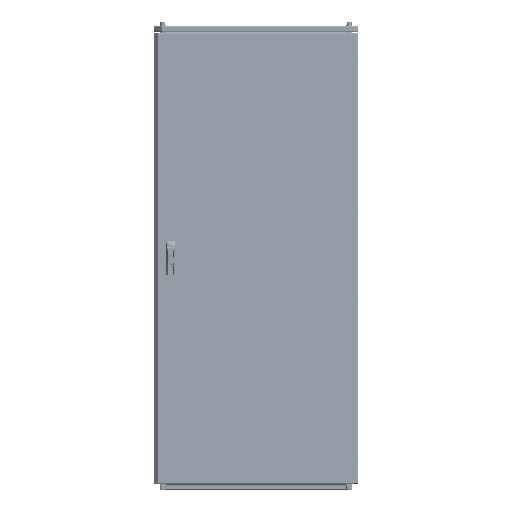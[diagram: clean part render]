
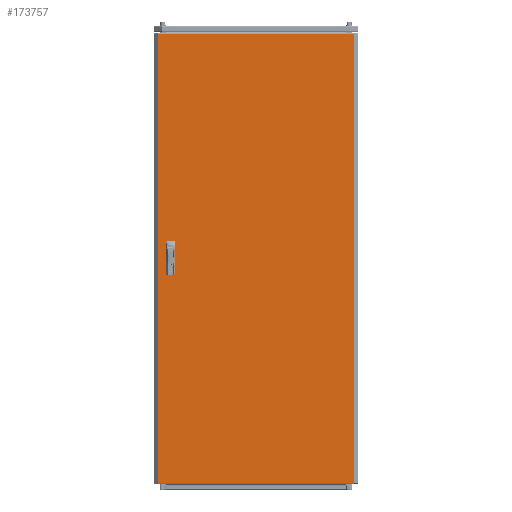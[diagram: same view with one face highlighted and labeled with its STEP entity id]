
A CAD part, top view. The second image highlights one B-rep face of the part: STEP entity #173757.
In plain terms, the highlighted planar face has unit normal (0, 0, 1).
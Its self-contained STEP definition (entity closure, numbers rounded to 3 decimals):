
#792 = DIRECTION ( 'NONE',  ( 0., 0., -1. ) ) ;
#7034 = EDGE_CURVE ( 'NONE', #218045, #122616, #95365, .T. ) ;
#11101 = VERTEX_POINT ( 'NONE', #95816 ) ;
#13600 = LINE ( 'NONE', #199416, #47306 ) ;
#14754 = VERTEX_POINT ( 'NONE', #122624 ) ;
#15199 = ORIENTED_EDGE ( 'NONE', *, *, #7034, .F. ) ;
#15767 = LINE ( 'NONE', #108133, #219562 ) ;
#16088 = DIRECTION ( 'NONE',  ( 1., 0., 0. ) ) ;
#16278 = VERTEX_POINT ( 'NONE', #167159 ) ;
#19413 = CARTESIAN_POINT ( 'NONE',  ( -317.5, -62.5, 0. ) ) ;
#22936 = CARTESIAN_POINT ( 'NONE',  ( -317.5, -62.5, 0. ) ) ;
#26870 = DIRECTION ( 'NONE',  ( -1., 0., 0. ) ) ;
#29072 = VECTOR ( 'NONE', #86036, 1000. ) ;
#29470 = EDGE_LOOP ( 'NONE', ( #204552, #179760, #103034, #164426 ) ) ;
#34329 = LINE ( 'NONE', #141286, #180060 ) ;
#37927 = ORIENTED_EDGE ( 'NONE', *, *, #128377, .F. ) ;
#39234 = AXIS2_PLACEMENT_3D ( 'NONE', #238852, #792, #127204 ) ;
#43560 = CARTESIAN_POINT ( 'NONE',  ( -342.5, 12.5, 0. ) ) ;
#44657 = VECTOR ( 'NONE', #26870, 1000. ) ;
#46365 = CARTESIAN_POINT ( 'NONE',  ( -317.5, -12.5, 0. ) ) ;
#47306 = VECTOR ( 'NONE', #234644, 1000. ) ;
#51247 = ORIENTED_EDGE ( 'NONE', *, *, #104900, .F. ) ;
#56586 = CARTESIAN_POINT ( 'NONE',  ( -377.875, -869.5, 0. ) ) ;
#57864 = CARTESIAN_POINT ( 'NONE',  ( 377.875, -869.5, 0. ) ) ;
#59441 = LINE ( 'NONE', #131169, #233244 ) ;
#68687 = CARTESIAN_POINT ( 'NONE',  ( -342.5, 62.5, 0. ) ) ;
#71178 = CARTESIAN_POINT ( 'NONE',  ( -377.875, -869.5, 0. ) ) ;
#71860 = EDGE_CURVE ( 'NONE', #184572, #16278, #204584, .T. ) ;
#83690 = VERTEX_POINT ( 'NONE', #162291 ) ;
#85874 = VECTOR ( 'NONE', #134119, 1000. ) ;
#86036 = DIRECTION ( 'NONE',  ( -1., 0., 0. ) ) ;
#88088 = DIRECTION ( 'NONE',  ( -1., 0., 0. ) ) ;
#89260 = LINE ( 'NONE', #68687, #127742 ) ;
#91992 = VECTOR ( 'NONE', #99536, 1000. ) ;
#95365 = LINE ( 'NONE', #187609, #233957 ) ;
#95816 = CARTESIAN_POINT ( 'NONE',  ( -317.5, 62.5, 0. ) ) ;
#98050 = EDGE_CURVE ( 'NONE', #150787, #184572, #156550, .T. ) ;
#99536 = DIRECTION ( 'NONE',  ( 0., 1., 0. ) ) ;
#103034 = ORIENTED_EDGE ( 'NONE', *, *, #215682, .T. ) ;
#104900 = EDGE_CURVE ( 'NONE', #11101, #218045, #89260, .T. ) ;
#106095 = VERTEX_POINT ( 'NONE', #22936 ) ;
#108133 = CARTESIAN_POINT ( 'NONE',  ( -342.5, 12.5, 0. ) ) ;
#109219 = EDGE_CURVE ( 'NONE', #16278, #106095, #59441, .T. ) ;
#112093 = DIRECTION ( 'NONE',  ( 0., 1., 0. ) ) ;
#112161 = VERTEX_POINT ( 'NONE', #71178 ) ;
#119227 = CARTESIAN_POINT ( 'NONE',  ( -377.875, 869.5, 0. ) ) ;
#122526 = ORIENTED_EDGE ( 'NONE', *, *, #71860, .F. ) ;
#122616 = VERTEX_POINT ( 'NONE', #43560 ) ;
#122624 = CARTESIAN_POINT ( 'NONE',  ( -377.875, 869.5, 0. ) ) ;
#127204 = DIRECTION ( 'NONE',  ( -1., 0., 0. ) ) ;
#127599 = LINE ( 'NONE', #19413, #91992 ) ;
#127742 = VECTOR ( 'NONE', #88088, 1000. ) ;
#128377 = EDGE_CURVE ( 'NONE', #83690, #11101, #189706, .T. ) ;
#130539 = CARTESIAN_POINT ( 'NONE',  ( -342.5, -62.5, 0. ) ) ;
#131169 = CARTESIAN_POINT ( 'NONE',  ( -342.5, -62.5, 0. ) ) ;
#133540 = DIRECTION ( 'NONE',  ( 1., 0., 0. ) ) ;
#134119 = DIRECTION ( 'NONE',  ( 0., -1., 0. ) ) ;
#137441 = LINE ( 'NONE', #119227, #44657 ) ;
#141286 = CARTESIAN_POINT ( 'NONE',  ( -377.875, -869.5, 0. ) ) ;
#144872 = ORIENTED_EDGE ( 'NONE', *, *, #98050, .F. ) ;
#146492 = EDGE_LOOP ( 'NONE', ( #144872, #181408, #213024, #122526 ) ) ;
#148527 = CARTESIAN_POINT ( 'NONE',  ( -317.5, 12.5, 0. ) ) ;
#150787 = VERTEX_POINT ( 'NONE', #46365 ) ;
#156550 = LINE ( 'NONE', #231761, #29072 ) ;
#162291 = CARTESIAN_POINT ( 'NONE',  ( -317.5, 12.5, 0. ) ) ;
#164426 = ORIENTED_EDGE ( 'NONE', *, *, #187346, .T. ) ;
#166013 = FACE_BOUND ( 'NONE', #232389, .T. ) ;
#167159 = CARTESIAN_POINT ( 'NONE',  ( -342.5, -62.5, 0. ) ) ;
#167198 = FACE_BOUND ( 'NONE', #146492, .T. ) ;
#167960 = VERTEX_POINT ( 'NONE', #57864 ) ;
#168211 = DIRECTION ( 'NONE',  ( 0., -1., 0. ) ) ;
#173757 = ADVANCED_FACE ( 'NONE', ( #166013, #167198, #223020 ), #200042, .F. ) ;
#179760 = ORIENTED_EDGE ( 'NONE', *, *, #218351, .T. ) ;
#180060 = VECTOR ( 'NONE', #16088, 1000. ) ;
#181408 = ORIENTED_EDGE ( 'NONE', *, *, #226586, .F. ) ;
#184572 = VERTEX_POINT ( 'NONE', #231186 ) ;
#187346 = EDGE_CURVE ( 'NONE', #112161, #167960, #34329, .T. ) ;
#187609 = CARTESIAN_POINT ( 'NONE',  ( -342.5, 12.5, 0. ) ) ;
#189706 = LINE ( 'NONE', #148527, #227590 ) ;
#191566 = ORIENTED_EDGE ( 'NONE', *, *, #225435, .F. ) ;
#195871 = CARTESIAN_POINT ( 'NONE',  ( -342.5, 62.5, 0. ) ) ;
#199416 = CARTESIAN_POINT ( 'NONE',  ( 377.875, -869.5, 0. ) ) ;
#200042 = PLANE ( 'NONE',  #39234 ) ;
#203536 = DIRECTION ( 'NONE',  ( 0., -1., 0. ) ) ;
#204552 = ORIENTED_EDGE ( 'NONE', *, *, #212620, .T. ) ;
#204584 = LINE ( 'NONE', #130539, #85874 ) ;
#212620 = EDGE_CURVE ( 'NONE', #167960, #214453, #13600, .T. ) ;
#213024 = ORIENTED_EDGE ( 'NONE', *, *, #109219, .F. ) ;
#214453 = VERTEX_POINT ( 'NONE', #219774 ) ;
#215682 = EDGE_CURVE ( 'NONE', #14754, #112161, #222928, .T. ) ;
#218045 = VERTEX_POINT ( 'NONE', #195871 ) ;
#218351 = EDGE_CURVE ( 'NONE', #214453, #14754, #137441, .T. ) ;
#219562 = VECTOR ( 'NONE', #239210, 1000. ) ;
#219774 = CARTESIAN_POINT ( 'NONE',  ( 377.875, 869.5, 0. ) ) ;
#222349 = VECTOR ( 'NONE', #203536, 1000. ) ;
#222928 = LINE ( 'NONE', #56586, #222349 ) ;
#223020 = FACE_OUTER_BOUND ( 'NONE', #29470, .T. ) ;
#225435 = EDGE_CURVE ( 'NONE', #122616, #83690, #15767, .T. ) ;
#226586 = EDGE_CURVE ( 'NONE', #106095, #150787, #127599, .T. ) ;
#227590 = VECTOR ( 'NONE', #112093, 1000. ) ;
#231186 = CARTESIAN_POINT ( 'NONE',  ( -342.5, -12.5, 0. ) ) ;
#231761 = CARTESIAN_POINT ( 'NONE',  ( -342.5, -12.5, 0. ) ) ;
#232389 = EDGE_LOOP ( 'NONE', ( #51247, #37927, #191566, #15199 ) ) ;
#233244 = VECTOR ( 'NONE', #133540, 1000. ) ;
#233957 = VECTOR ( 'NONE', #168211, 1000. ) ;
#234644 = DIRECTION ( 'NONE',  ( 0., 1., 0. ) ) ;
#238852 = CARTESIAN_POINT ( 'NONE',  ( 0., 0., 0. ) ) ;
#239210 = DIRECTION ( 'NONE',  ( 1., 0., 0. ) ) ;
